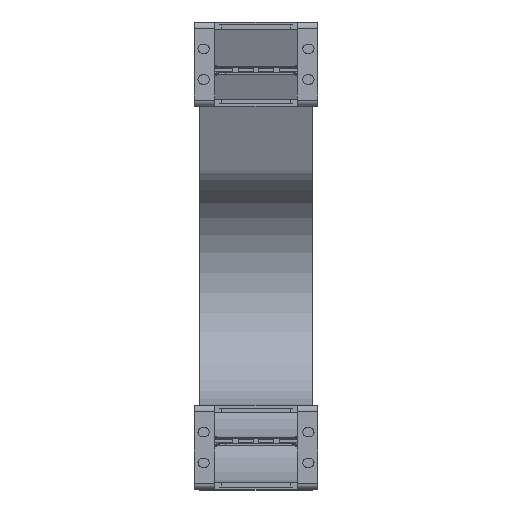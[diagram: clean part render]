
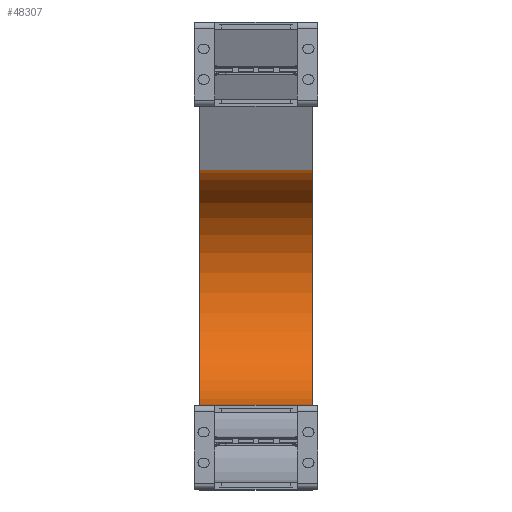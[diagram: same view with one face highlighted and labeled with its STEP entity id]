
A CAD part, top view. The second image highlights one B-rep face of the part: STEP entity #48307.
In plain terms, the highlighted cylindrical face has radius 57.5 mm (diameter 115 mm), a partial arc.
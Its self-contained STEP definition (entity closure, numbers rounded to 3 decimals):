
#47459=DIRECTION('',(-1.,0.,0.));
#47460=VECTOR('',#47459,55.);
#47461=CARTESIAN_POINT('',(27.5,41.,-400.));
#47462=LINE('',#47461,#47460);
#47473=DIRECTION('',(-1.,0.,0.));
#47474=VECTOR('',#47473,55.);
#47475=CARTESIAN_POINT('',(27.5,155.782,-405.006));
#47476=LINE('',#47475,#47474);
#47480=CARTESIAN_POINT('',(27.5,98.5,-400.));
#47481=DIRECTION('',(-1.,0.,0.));
#47482=DIRECTION('',(0.,0.996,-0.087));
#47483=AXIS2_PLACEMENT_3D('',#47480,#47481,#47482);
#47559=CARTESIAN_POINT('',(-27.5,98.5,-400.));
#47560=DIRECTION('',(-1.,0.,0.));
#47561=DIRECTION('',(0.,0.996,-0.087));
#47562=AXIS2_PLACEMENT_3D('',#47559,#47560,#47561);
#47681=CARTESIAN_POINT('',(27.5,155.782,-405.006));
#47682=CARTESIAN_POINT('',(-27.5,155.782,-405.006));
#47683=VERTEX_POINT('',#47681);
#47684=VERTEX_POINT('',#47682);
#47705=CARTESIAN_POINT('',(27.5,41.,-400.));
#47706=CARTESIAN_POINT('',(-27.5,41.,-400.));
#47707=VERTEX_POINT('',#47705);
#47708=VERTEX_POINT('',#47706);
#48293=CARTESIAN_POINT('',(1.,98.5,-400.));
#48294=DIRECTION('',(-1.,0.,0.));
#48295=DIRECTION('',(0.,-0.996,0.087));
#48296=AXIS2_PLACEMENT_3D('',#48293,#48294,#48295);
#48297=CYLINDRICAL_SURFACE('',#48296,57.5);
#48299=ORIENTED_EDGE('',*,*,#48298,.F.);
#48301=ORIENTED_EDGE('',*,*,#48300,.T.);
#48302=ORIENTED_EDGE('',*,*,#48276,.T.);
#48304=ORIENTED_EDGE('',*,*,#48303,.F.);
#48305=EDGE_LOOP('',(#48299,#48301,#48302,#48304));
#48306=FACE_OUTER_BOUND('',#48305,.F.);
#47484=CIRCLE('',#47483,57.5);
#47563=CIRCLE('',#47562,57.5);
#48276=EDGE_CURVE('',#47707,#47708,#47462,.T.);
#48298=EDGE_CURVE('',#47683,#47684,#47476,.T.);
#48300=EDGE_CURVE('',#47683,#47707,#47484,.T.);
#48303=EDGE_CURVE('',#47684,#47708,#47563,.T.);
#48307=ADVANCED_FACE('',(#48306),#48297,.F.);
